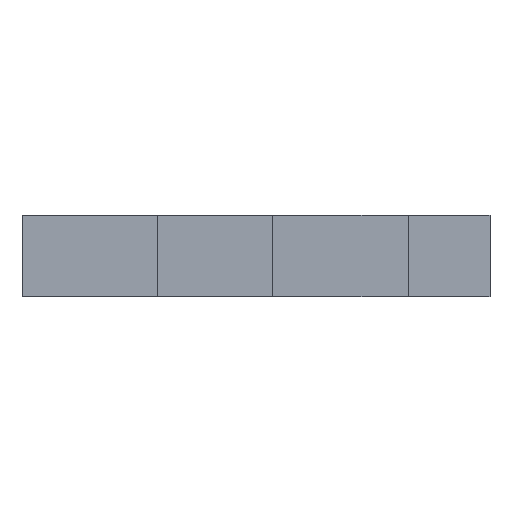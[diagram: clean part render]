
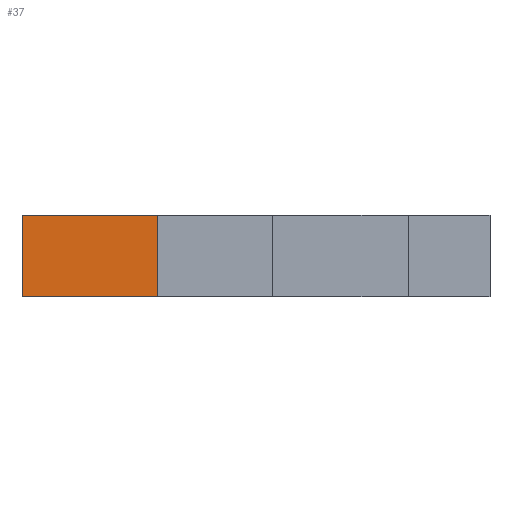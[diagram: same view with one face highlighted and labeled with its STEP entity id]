
A CAD part, left-side view. The second image highlights one B-rep face of the part: STEP entity #37.
In plain terms, the highlighted planar face has unit normal (-1, 0, 0).
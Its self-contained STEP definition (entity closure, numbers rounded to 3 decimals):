
#37=ADVANCED_FACE('',(#67),#536,.T.);
#67=FACE_OUTER_BOUND('',#97,.T.);
#97=EDGE_LOOP('',(#173,#174,#175,#176));
#173=ORIENTED_EDGE('',*,*,#334,.T.);
#174=ORIENTED_EDGE('',*,*,#335,.T.);
#175=ORIENTED_EDGE('',*,*,#336,.F.);
#176=ORIENTED_EDGE('',*,*,#333,.F.);
#333=EDGE_CURVE('',#493,#494,#440,.T.);
#334=EDGE_CURVE('',#493,#495,#441,.T.);
#335=EDGE_CURVE('',#495,#496,#442,.T.);
#336=EDGE_CURVE('',#494,#496,#443,.T.);
#440=B_SPLINE_CURVE_WITH_KNOTS('',1,(#930,#931),.UNSPECIFIED.,.F.,.F.,(2,
2),(0.,5.),.UNSPECIFIED.);
#441=B_SPLINE_CURVE_WITH_KNOTS('',1,(#932,#933),.UNSPECIFIED.,.F.,.F.,(2,
2),(74.42,82.688),.UNSPECIFIED.);
#442=B_SPLINE_CURVE_WITH_KNOTS('',1,(#934,#935),.UNSPECIFIED.,.F.,.F.,(2,
2),(0.,5.),.UNSPECIFIED.);
#443=B_SPLINE_CURVE_WITH_KNOTS('',1,(#936,#937),.UNSPECIFIED.,.F.,.F.,(2,
2),(74.42,82.688),.UNSPECIFIED.);
#493=VERTEX_POINT('',#792);
#494=VERTEX_POINT('',#793);
#495=VERTEX_POINT('',#794);
#496=VERTEX_POINT('',#795);
#536=PLANE('',#574);
#574=AXIS2_PLACEMENT_3D('',#634,#595,$);
#595=DIRECTION('',(-1.,0.,0.));
#634=CARTESIAN_POINT('',(-13.946,188.084,355.976));
#792=CARTESIAN_POINT('',(-13.946,188.084,355.976));
#793=CARTESIAN_POINT('',(-13.946,188.084,360.976));
#794=CARTESIAN_POINT('',(-13.946,179.816,355.976));
#795=CARTESIAN_POINT('',(-13.946,179.816,360.976));
#930=CARTESIAN_POINT('',(-13.946,188.084,355.976));
#931=CARTESIAN_POINT('',(-13.946,188.084,360.976));
#932=CARTESIAN_POINT('',(-13.946,188.084,355.976));
#933=CARTESIAN_POINT('',(-13.946,179.816,355.976));
#934=CARTESIAN_POINT('',(-13.946,179.816,355.976));
#935=CARTESIAN_POINT('',(-13.946,179.816,360.976));
#936=CARTESIAN_POINT('',(-13.946,188.084,360.976));
#937=CARTESIAN_POINT('',(-13.946,179.816,360.976));
